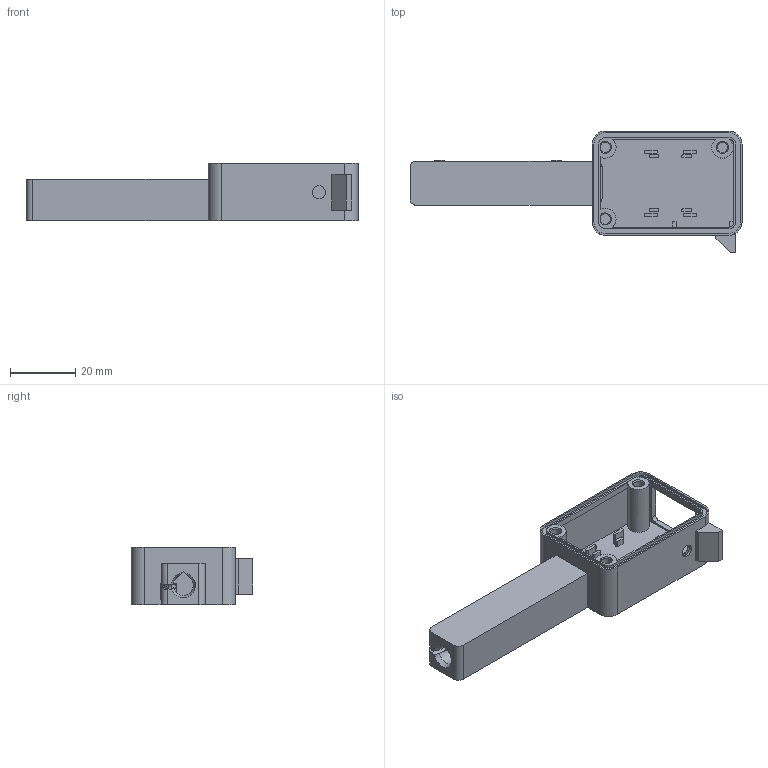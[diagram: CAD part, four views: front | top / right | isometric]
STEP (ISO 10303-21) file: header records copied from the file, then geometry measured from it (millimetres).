
FILE_DESCRIPTION(('Open CASCADE Model'),'2;1');
FILE_NAME('Open CASCADE Shape Model','2026-10-21T17:27:38',('Author'),( 'Open CASCADE'),'Open CASCADE STEP processor 7.9','Open CASCADE 7.9' ,'Unknown');
FILE_SCHEMA(('AUTOMOTIVE_DESIGN { 1 0 10303 214 1 1 1 1 }'));
Length unit declared in the file: millimetre
Products named in the file (1): Open CASCADE STEP translator 7.9 2
Bounding box: 102 x 37.4 x 17.8 mm (x, y, z)
Volume: 14945.1 mm3; surface area: 13850.8 mm2
Topology: 1 solids, 1 shells, 238 faces, 680 edges, 449 vertices
Faces by surface type: plane 143, cylinder 86, cone 5, sphere 4
Full cylindrical faces by diameter (mm): 1.64 x7, 2.2 x1, 3.2 x3, 4 x2, 6.6 x1, 8.6 x1
Entity records: 18189 total; most frequent: CARTESIAN_POINT 5163, DIRECTION 2336, ORIENTED_EDGE 1356, PCURVE 1356, DEFINITIONAL_REPRESENTATION 1356, LINE 1230, VECTOR 1230, EDGE_CURVE 678
